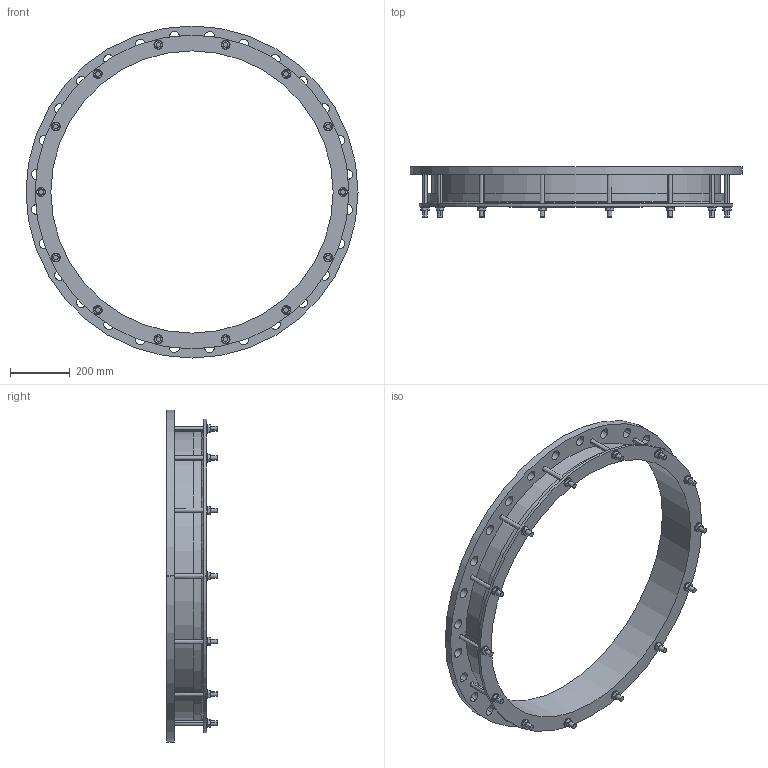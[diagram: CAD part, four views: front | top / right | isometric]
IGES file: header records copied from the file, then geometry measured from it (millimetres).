
Start section:  PTC IGES file: 945x900pn10.igs
Global section: file name: 945x900pn10.igs; native system: Creo Parametric by PTC Inc.; preprocessor: 2016130; author: mfairey; organization: Unknown; date: 20190117.103348; units: millimetre
Bounding box: 1115 x 169 x 1115 mm (x, y, z)
Surface area: 1733329.1 mm2 (no closed solid volume)
Topology: 0 solids, 0 shells, 284 faces, 1504 edges, 1504 vertices
Faces by surface type: revolution 154, bspline 130
